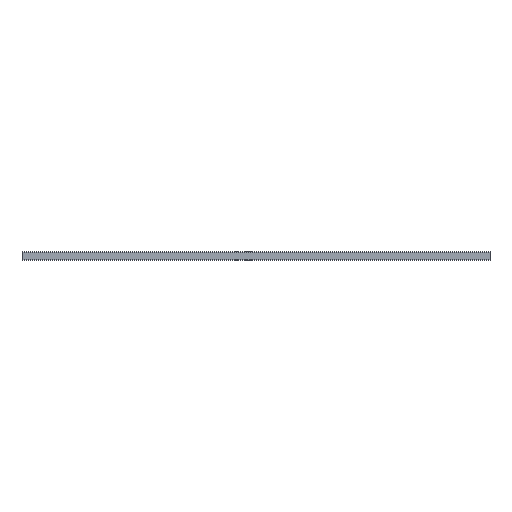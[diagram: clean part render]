
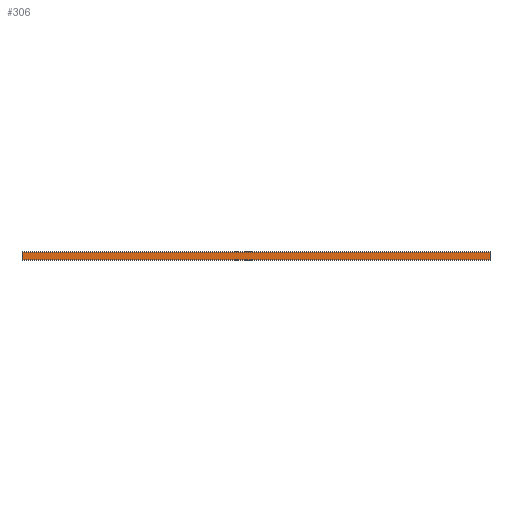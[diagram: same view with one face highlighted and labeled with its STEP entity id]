
A CAD part, left-side view. The second image highlights one B-rep face of the part: STEP entity #306.
In plain terms, the highlighted planar face has unit normal (-1, 0, 0).
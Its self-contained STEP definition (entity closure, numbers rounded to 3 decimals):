
#88 = CARTESIAN_POINT ( 'NONE',  ( -12.5, -500., -8. ) ) ;
#213 = DIRECTION ( 'NONE',  ( 1., 0., 0. ) ) ;
#275 = DIRECTION ( 'NONE',  ( 0., 0., 1. ) ) ;
#306 = ADVANCED_FACE ( 'NONE', ( #2561 ), #2929, .F. ) ;
#441 = LINE ( 'NONE', #4027, #3730 ) ;
#574 = ORIENTED_EDGE ( 'NONE', *, *, #2778, .F. ) ;
#640 = VECTOR ( 'NONE', #2857, 1000. ) ;
#691 = VERTEX_POINT ( 'NONE', #2238 ) ;
#740 = LINE ( 'NONE', #3847, #640 ) ;
#858 = ORIENTED_EDGE ( 'NONE', *, *, #1877, .F. ) ;
#1049 = EDGE_CURVE ( 'NONE', #3232, #2834, #2949, .T. ) ;
#1092 = CARTESIAN_POINT ( 'NONE',  ( -12.5, -500., -8. ) ) ;
#1276 = VECTOR ( 'NONE', #275, 1000. ) ;
#1359 = ORIENTED_EDGE ( 'NONE', *, *, #1749, .T. ) ;
#1380 = LINE ( 'NONE', #2183, #1276 ) ;
#1412 = DIRECTION ( 'NONE',  ( 0., -1., 0. ) ) ;
#1563 = VERTEX_POINT ( 'NONE', #3635 ) ;
#1749 = EDGE_CURVE ( 'NONE', #691, #3232, #441, .T. ) ;
#1877 = EDGE_CURVE ( 'NONE', #1563, #2834, #740, .T. ) ;
#2012 = AXIS2_PLACEMENT_3D ( 'NONE', #2883, #213, #2715 ) ;
#2030 = DIRECTION ( 'NONE',  ( 0., 0., 1. ) ) ;
#2111 = VECTOR ( 'NONE', #2030, 1000. ) ;
#2183 = CARTESIAN_POINT ( 'NONE',  ( -12.5, 500., -8. ) ) ;
#2238 = CARTESIAN_POINT ( 'NONE',  ( -12.5, 500., -8. ) ) ;
#2561 = FACE_OUTER_BOUND ( 'NONE', #2764, .T. ) ;
#2715 = DIRECTION ( 'NONE',  ( 0., 0., -1. ) ) ;
#2764 = EDGE_LOOP ( 'NONE', ( #3125, #858, #574, #1359 ) ) ;
#2767 = CARTESIAN_POINT ( 'NONE',  ( -12.5, -500., 8. ) ) ;
#2778 = EDGE_CURVE ( 'NONE', #691, #1563, #1380, .T. ) ;
#2834 = VERTEX_POINT ( 'NONE', #2767 ) ;
#2857 = DIRECTION ( 'NONE',  ( 0., -1., 0. ) ) ;
#2883 = CARTESIAN_POINT ( 'NONE',  ( -12.5, 500., -8. ) ) ;
#2929 = PLANE ( 'NONE',  #2012 ) ;
#2949 = LINE ( 'NONE', #1092, #2111 ) ;
#3125 = ORIENTED_EDGE ( 'NONE', *, *, #1049, .T. ) ;
#3232 = VERTEX_POINT ( 'NONE', #88 ) ;
#3635 = CARTESIAN_POINT ( 'NONE',  ( -12.5, 500., 8. ) ) ;
#3730 = VECTOR ( 'NONE', #1412, 1000. ) ;
#3847 = CARTESIAN_POINT ( 'NONE',  ( -12.5, 500., 8. ) ) ;
#4027 = CARTESIAN_POINT ( 'NONE',  ( -12.5, 500., -8. ) ) ;
